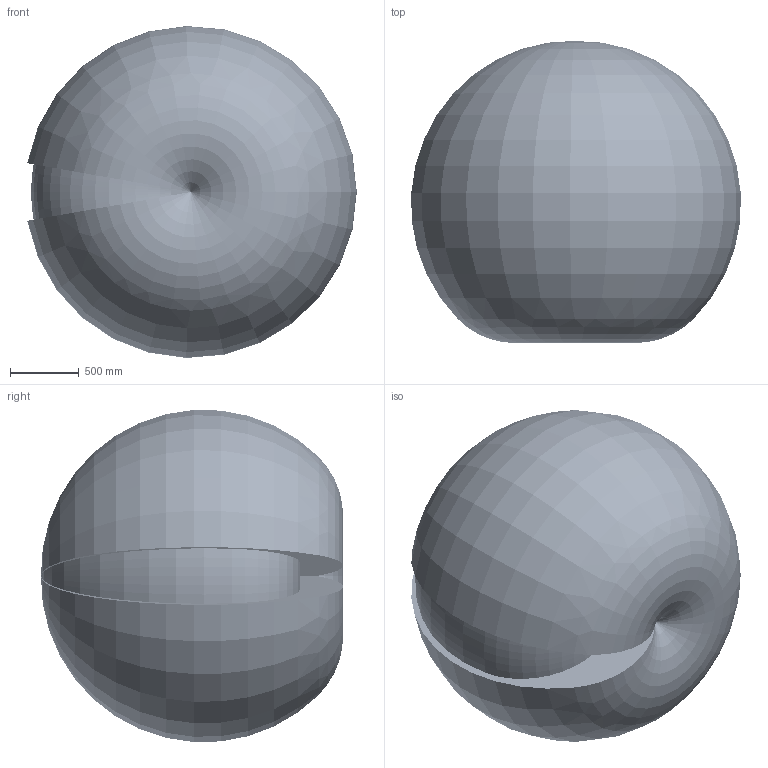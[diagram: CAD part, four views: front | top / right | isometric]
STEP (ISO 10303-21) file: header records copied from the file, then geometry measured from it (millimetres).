
FILE_DESCRIPTION (( 'STEP AP214' ), '1' );
FILE_NAME ('AIR10-1210-Assembly.STEP', '2024-02-21T01:58:35', ( '' ), ( '' ), 'SwSTEP 2.0', 'SolidWorks 2011', '' );
FILE_SCHEMA (( 'AUTOMOTIVE_DESIGN' ));
Length unit declared in the file: millimetre
Products named in the file (9): AIR10-1210-Working range; AIR10-1210-Link6-Flange; AIR10-1210-Link5-Wrist; AIR10-1210-Link4-Lower-arm; AIR10-1210-Link3-Elbow; AIR10-1210-Link2-Upper-arm; AIR10-1210-Link1-Shoulder; AIR10-1210-Link0-Base; AIR10-1210-Assembly
Assembly tree (8 placements, depth 2):
  AIR10-1210-Assembly
    AIR10-1210-Working range
    AIR10-1210-Link6-Flange
    AIR10-1210-Link0-Base
    AIR10-1210-Link4-Lower-arm
    AIR10-1210-Link3-Elbow
    AIR10-1210-Link5-Wrist
    AIR10-1210-Link1-Shoulder
    AIR10-1210-Link2-Upper-arm
Bounding box: 2398.9 x 2198.8 x 2416.39 mm (x, y, z)
Volume: 6979792767.6 mm3; surface area: 24625517.6 mm2
Topology: 87 solids, 172 shells, 16389 faces, 40915 edges, 24683 vertices
Faces by surface type: plane 6834, bspline 3656, cylinder 2883, cone 1531, torus 1205, sphere 280
Entity records: 1090868 total; most frequent: CARTESIAN_POINT 554681, ORIENTED_EDGE 80348, DIRECTION 64346, EDGE_CURVE 40178, VERTEX_POINT 24667, AXIS2_PLACEMENT_3D 23985, EDGE_LOOP 17467, UNCERTAINTY_MEASURE_WITH_UNIT 16483
